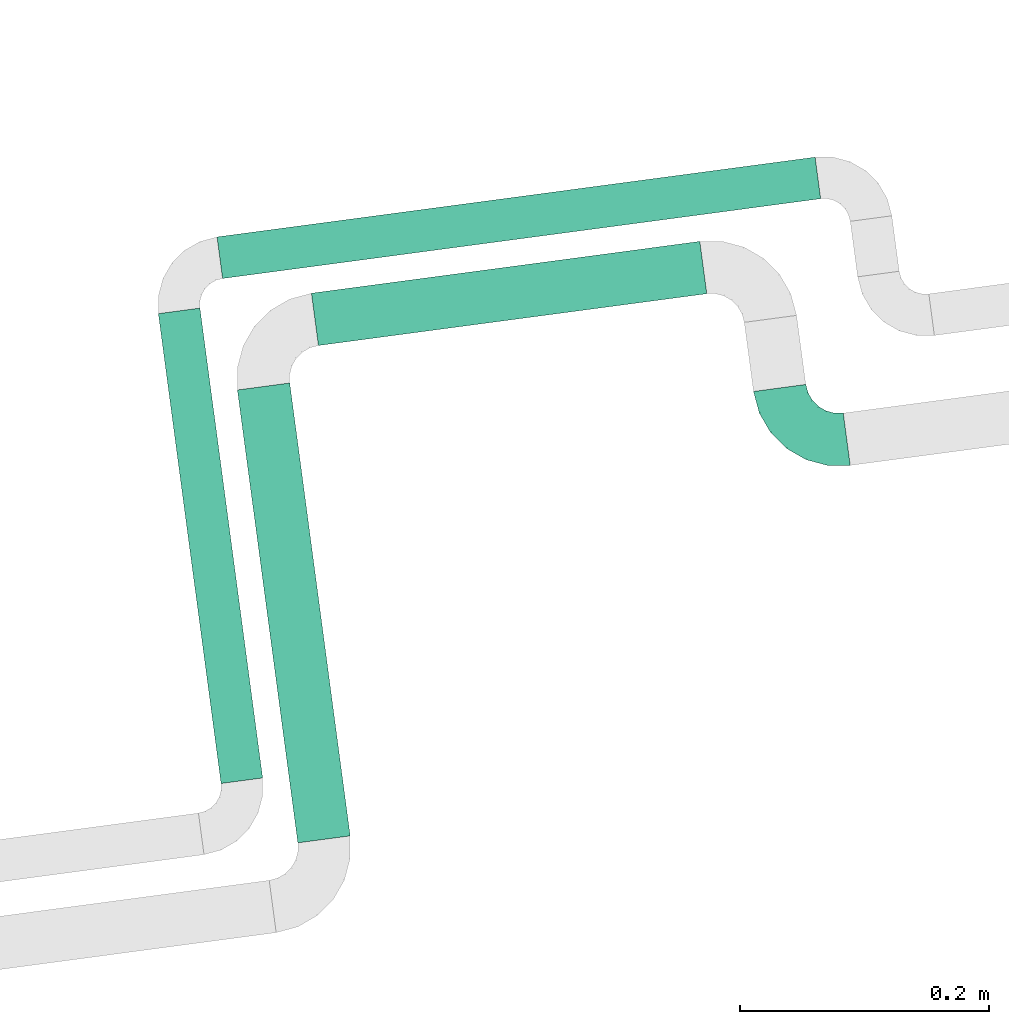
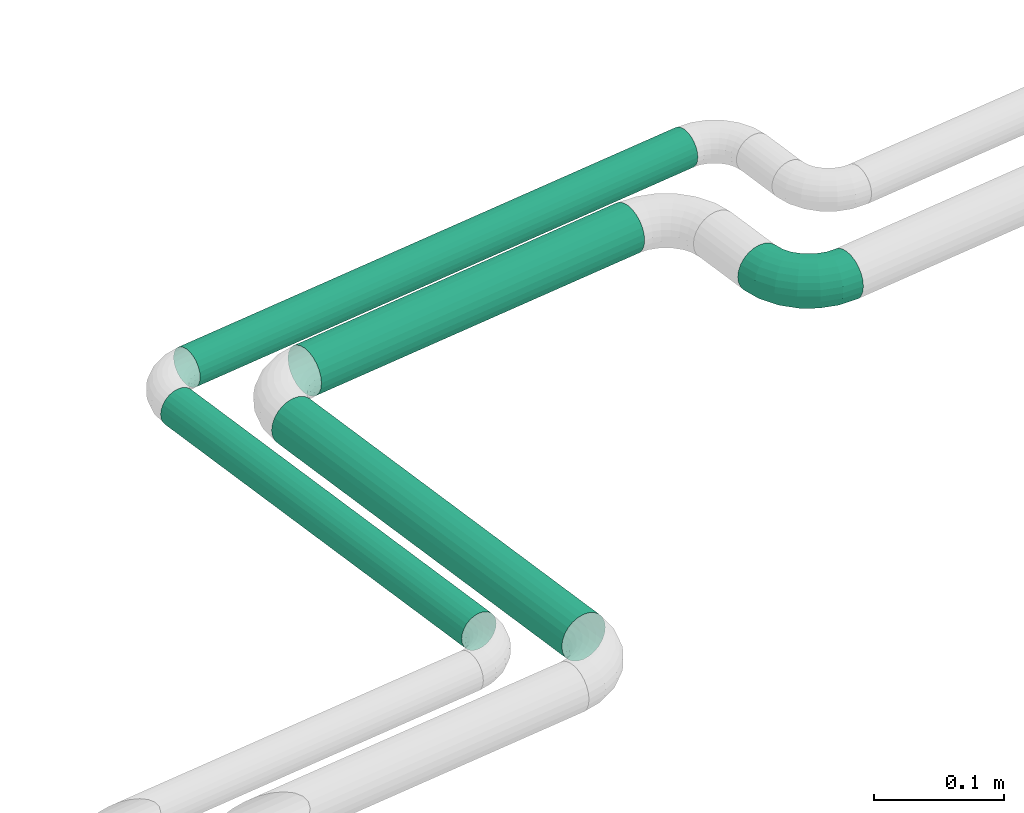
# One storey, part 325 of 374: 5 flow segments.
"""IFC2X3 building model written with IfcOpenShell, lengths in metres."""

from ifc_helpers import new_model, si_unit, direction, origin, place, context, subcontext, project, spatial, open_shell, surface_model, source, transform, mapped, element, save


model = new_model("IFC2X3")

# Units and contexts
model_context = context("Model", 3, precision=1e-05, world=origin(), true_north=direction((-0.4480736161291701, 0.8939966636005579)))
body_context = subcontext(model_context, "Body", "Model", "MODEL_VIEW")
ifc_project = project(units=[si_unit("LENGTHUNIT", "METRE"), si_unit("AREAUNIT", "SQUARE_METRE"), si_unit("VOLUMEUNIT", "CUBIC_METRE"), si_unit("PLANEANGLEUNIT", "RADIAN"), si_unit("THERMODYNAMICTEMPERATUREUNIT", "KELVIN"), si_unit("MASSUNIT", "GRAM", prefix="KILO"), si_unit("TIMEUNIT", "SECOND")], contexts=[model_context])

# Site, building, storey
site_placement = place(None, origin())
site = spatial("IfcSite", under=ifc_project, at=site_placement, Name="Site 1", CompositionType="ELEMENT")
building_placement = place(site_placement, origin())
building = spatial("IfcBuilding", under=site, at=building_placement, Name="Undefined", CompositionType="ELEMENT")
storey_placement = place(building_placement, origin())
storey = spatial("IfcBuildingStorey", under=building, at=storey_placement, Name="Rez de chauss\x8ee", CompositionType="ELEMENT", Elevation=0.0)

# Flow segments
shared_shape_1 = source(origin(), body_context, "Body", "SurfaceModel", [
    surface_model("IfcFaceBasedSurfaceModel", [(0.01806482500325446, 7.105427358e-15, 0.0), (0.017970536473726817, 0.005533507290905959, 0.0), (9.428852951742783e-05, 0.005533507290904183, 1.776356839e-15), (0.0, 0.0, 0.0), (-0.017172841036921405, 0.00613233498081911, -0.004587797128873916), (-0.01744928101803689, 0.0006051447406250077, -0.004636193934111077), (-0.03265412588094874, 0.007289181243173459, -0.013450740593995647), (-0.0330938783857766, 0.0017741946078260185, -0.013592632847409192), (-0.045294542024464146, 0.008925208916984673, -0.02598483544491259), (-0.045867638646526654, 0.0034274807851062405, -0.02625895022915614), (-0.054232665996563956, 0.010928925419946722, -0.041335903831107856), (-0.05490005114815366, 0.005452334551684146, -0.04177195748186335), (-0.05885937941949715, 0.013163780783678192, -0.05845779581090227), (-0.059575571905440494, 0.007710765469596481, -0.05907446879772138), (0.01769409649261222, 0.010875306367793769, -0.0014203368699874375), (0.00037072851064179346, 0.010875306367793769, -0.0014203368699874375), (-0.016362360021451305, 0.011455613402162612, -0.005866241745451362), (-0.03136483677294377, 0.012576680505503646, -0.014455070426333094), (-0.04361430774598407, 0.014162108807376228, -0.026601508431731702), (-0.05227599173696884, 0.016103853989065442, -0.0414777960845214), (-0.05675960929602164, 0.018269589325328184, -0.05807013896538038), (0.017254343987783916, 0.015661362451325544, -0.0041642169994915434), (0.0008104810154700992, 0.015661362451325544, -0.004164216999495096), (-0.01507307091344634, 0.016212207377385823, -0.008384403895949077), (-0.029313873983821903, 0.01727635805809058, -0.016537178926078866), (-0.04094144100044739, 0.01878129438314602, -0.02806694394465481), (-0.049163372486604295, 0.02062445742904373, -0.042187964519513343), (-0.05341935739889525, 0.02268023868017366, -0.05793791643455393), (0.016681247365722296, 0.01956551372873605, -0.008044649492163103), (0.001383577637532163, 0.01956551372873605, -0.008044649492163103), (-0.01339283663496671, 0.020077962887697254, -0.011970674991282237), (-0.026641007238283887, 0.021067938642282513, -0.01955517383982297), (-0.03745809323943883, 0.02246797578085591, -0.03028127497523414), (-0.04510692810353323, 0.0241826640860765, -0.04341801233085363), (-0.04906625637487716, 0.026095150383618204, -0.05807013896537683), (0.016013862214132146, 0.022321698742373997, -0.012797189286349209), (0.0020509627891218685, 0.022321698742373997, -0.012797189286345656), (-0.011436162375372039, 0.02278943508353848, -0.016380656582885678), (-0.023528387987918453, 0.02369303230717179, -0.023303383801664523), (-0.03340164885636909, 0.024970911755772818, -0.03309359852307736), (-0.040383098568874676, 0.026535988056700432, -0.04508411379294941), (-0.04399696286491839, 0.028281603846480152, -0.05845779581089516), (0.015297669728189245, 0.023742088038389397, -0.018097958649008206), (0.00276715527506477, 0.023742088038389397, -0.018097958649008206), (-0.009336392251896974, 0.024161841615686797, -0.021313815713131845), (-0.02018813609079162, 0.02497274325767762, -0.0275263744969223), (-0.029048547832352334, 0.02611953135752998, -0.03631225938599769), (-0.03531380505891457, 0.027524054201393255, -0.04707272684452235), (-0.0385569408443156, 0.02909059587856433, -0.05907446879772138), (0.014581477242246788, 0.023729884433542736, -0.02358571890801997), (0.0034833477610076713, 0.023729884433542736, -0.02358571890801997), (-0.007236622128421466, 0.024101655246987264, -0.026433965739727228), (-0.016847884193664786, 0.02481986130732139, -0.03193635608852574), (-0.02469544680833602, 0.02583555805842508, -0.03971791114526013), (-0.0302445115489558, 0.027079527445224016, -0.04924833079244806), (-0.03311691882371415, 0.02846699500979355, -0.059878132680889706), (0.013914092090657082, 0.02228591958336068, -0.02888648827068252), (0.004150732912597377, 0.022285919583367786, -0.028886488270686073), (-0.005279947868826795, 0.022612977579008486, -0.031392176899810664), (-0.013735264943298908, 0.023244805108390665, -0.03623279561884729), (-0.020639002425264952, 0.02413834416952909, -0.04307846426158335), (-0.025520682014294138, 0.025232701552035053, -0.051462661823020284), (-0.028047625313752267, 0.026453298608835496, -0.060814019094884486), (0.013340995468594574, 0.01950859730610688, -0.03363902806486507), (0.0047238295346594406, 0.01950859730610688, -0.033639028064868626), (-0.0035997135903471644, 0.019797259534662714, -0.035850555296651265), (-0.011062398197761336, 0.0203549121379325, -0.04012289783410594), (-0.017155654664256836, 0.021143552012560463, -0.04616490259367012), (-0.02146423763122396, 0.022109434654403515, -0.05356481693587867), (-0.02369452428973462, 0.023186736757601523, -0.06181834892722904), (0.012901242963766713, 0.015587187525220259, -0.037519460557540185), (0.005163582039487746, 0.015587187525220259, -0.03751946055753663), (-0.0023104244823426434, 0.015846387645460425, -0.03950526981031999), (-0.009011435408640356, 0.016347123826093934, -0.043341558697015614), (-0.01448278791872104, 0.017055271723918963, -0.048766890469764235), (-0.018351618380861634, 0.017922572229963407, -0.05541153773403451), (-0.02035427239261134, 0.018889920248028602, -0.06282267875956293), (0.012624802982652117, 0.010788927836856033, -0.040263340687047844), (0.005440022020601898, 0.010788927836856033, -0.0402633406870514), (-0.0014999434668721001, 0.011029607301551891, -0.04210725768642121), (-0.007722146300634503, 0.01149456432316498, -0.045669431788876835), (-0.012802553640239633, 0.012152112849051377, -0.05070710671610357), (-0.0163949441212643, 0.012957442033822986, -0.056876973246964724), (-0.018254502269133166, 0.013855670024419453, -0.06375856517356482), (0.012530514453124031, 0.005440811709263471, -0.041683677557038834), (0.005534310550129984, 0.0054408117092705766, -0.041683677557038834), (-0.0012235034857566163, 0.005675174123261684, -0.04347919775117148), (-0.007282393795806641, 0.006127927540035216, -0.046947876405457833), (-0.012229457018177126, 0.0067682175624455, -0.05185332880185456), (-0.015727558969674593, 0.007552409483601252, -0.05786125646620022), (-0.01753830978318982, 0.008427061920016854, -0.0645622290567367), (0.012624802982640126, -9.269558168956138e-05, -0.04168367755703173), (0.005440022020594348, -9.269558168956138e-05, -0.04168367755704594), (-0.001499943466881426, 0.00014798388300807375, -0.043527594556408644), (-0.007722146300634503, 0.0006129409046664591, -0.047089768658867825), (-0.012802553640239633, 0.001270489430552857, -0.05212744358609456), (-0.0163949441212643, 0.002075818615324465, -0.058297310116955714), (-0.018254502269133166, 0.0029740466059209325, -0.06517890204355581), (0.012901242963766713, -0.005434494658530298, -0.0402633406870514), (0.005163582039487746, -0.005434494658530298, -0.040263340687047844), (-0.0023104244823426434, -0.005175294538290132, -0.0422491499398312), (-0.009011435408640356, -0.004674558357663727, -0.046085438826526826), (-0.01448278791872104, -0.0039664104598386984, -0.051510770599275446), (-0.018351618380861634, -0.0030991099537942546, -0.05815541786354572), (-0.02035427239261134, -0.0021317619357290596, -0.06556655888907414), (0.013340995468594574, -0.010220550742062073, -0.03751946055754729), (0.0047238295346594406, -0.010220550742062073, -0.03751946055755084), (-0.0035997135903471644, -0.009931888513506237, -0.03973098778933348), (-0.011062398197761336, -0.009374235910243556, -0.04400333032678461), (-0.017155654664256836, -0.00858559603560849, -0.05004533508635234), (-0.02146423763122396, -0.007619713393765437, -0.057445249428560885), (-0.02369452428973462, -0.006542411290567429, -0.06569878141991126), (0.013914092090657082, -0.01412470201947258, -0.03363902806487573), (0.004150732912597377, -0.014124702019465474, -0.033639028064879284), (-0.005279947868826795, -0.013797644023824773, -0.036144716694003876), (-0.013735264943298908, -0.013165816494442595, -0.0409853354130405), (-0.020639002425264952, -0.012272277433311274, -0.04783100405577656), (-0.025520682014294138, -0.011177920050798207, -0.05621520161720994), (-0.028047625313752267, -0.009957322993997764, -0.0655665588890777), (0.014581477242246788, -0.01688088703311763, -0.028886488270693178), (0.0034833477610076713, -0.01688088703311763, -0.028886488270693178), (-0.007236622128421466, -0.016509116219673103, -0.031734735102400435), (-0.016847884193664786, -0.015790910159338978, -0.03723712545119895), (-0.02469544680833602, -0.014775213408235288, -0.04501868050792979), (-0.0302445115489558, -0.01353124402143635, -0.054549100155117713), (-0.03311691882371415, -0.012143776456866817, -0.06517890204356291), (0.015297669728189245, -0.01830127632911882, -0.02358571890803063), (0.00276715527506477, -0.01830127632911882, -0.02358571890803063), (-0.009336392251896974, -0.01788152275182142, -0.026801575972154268), (-0.02018813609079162, -0.017070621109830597, -0.033014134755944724), (-0.029048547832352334, -0.01592383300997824, -0.04180001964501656), (-0.03531380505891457, -0.014519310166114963, -0.05256048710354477), (-0.0385569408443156, -0.012952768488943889, -0.06456222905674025), (0.016013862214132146, -0.01828907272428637, -0.018097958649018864), (0.0020509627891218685, -0.01828907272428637, -0.018097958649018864), (-0.011436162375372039, -0.01782133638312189, -0.021681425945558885), (-0.023528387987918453, -0.016917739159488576, -0.02860415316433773), (-0.03340164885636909, -0.01563985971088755, -0.038394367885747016), (-0.040383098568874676, -0.014074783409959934, -0.05038488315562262), (-0.04399696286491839, -0.012329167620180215, -0.06375856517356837), (0.016681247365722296, -0.01684510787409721, -0.012797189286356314), (0.001383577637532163, -0.01684510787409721, -0.012797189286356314), (-0.01339283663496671, -0.016332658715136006, -0.01672321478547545), (-0.026641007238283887, -0.015342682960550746, -0.02430771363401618), (-0.03745809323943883, -0.01394264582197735, -0.03503381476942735), (-0.04510692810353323, -0.01222795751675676, -0.04817055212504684), (-0.04906625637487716, -0.010315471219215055, -0.06282267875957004), (0.017254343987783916, -0.014067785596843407, -0.008044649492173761), (0.0008104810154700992, -0.014067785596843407, -0.008044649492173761), (-0.01507307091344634, -0.013516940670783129, -0.012264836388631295), (-0.029313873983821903, -0.012452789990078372, -0.020417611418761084), (-0.04094144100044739, -0.010947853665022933, -0.03194737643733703), (-0.049163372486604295, -0.009104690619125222, -0.04606839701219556), (-0.05341935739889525, -0.007048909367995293, -0.06181834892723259), (0.01769409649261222, -0.010146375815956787, -0.004164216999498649), (0.00037072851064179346, -0.010146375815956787, -0.004164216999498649), (-0.016362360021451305, -0.009566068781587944, -0.008610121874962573), (-0.03136483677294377, -0.008445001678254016, -0.017198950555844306), (-0.04361430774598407, -0.006859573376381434, -0.029345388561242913), (-0.05227599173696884, -0.00491782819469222, -0.04422167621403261), (-0.05675960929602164, -0.002752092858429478, -0.060814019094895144), (0.017970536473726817, -0.0053481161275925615, -0.0014203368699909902), (9.428852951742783e-05, -0.0053481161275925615, -0.0014203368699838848), (-0.017172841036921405, -0.004749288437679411, -0.006008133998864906), (-0.03265412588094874, -0.0035924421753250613, -0.014871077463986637), (-0.045294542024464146, -0.001956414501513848, -0.02740517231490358), (-0.05423266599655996, 4.730200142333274e-05, -0.042756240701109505), (-0.05885937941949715, 0.002282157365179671, -0.05987813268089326)], [open_shell([[[0, 1, 2, 3]], [[3, 2, 4, 5]], [[5, 4, 6, 7]], [[7, 6, 8, 9]], [[9, 8, 10, 11]], [[11, 10, 12, 13]], [[1, 14, 15, 2]], [[2, 15, 16, 4]], [[4, 16, 17, 6]], [[6, 17, 18, 8]], [[8, 18, 19, 10]], [[10, 19, 20, 12]], [[14, 21, 22, 15]], [[15, 22, 23, 16]], [[16, 23, 24, 17]], [[17, 24, 25, 18]], [[18, 25, 26, 19]], [[19, 26, 27, 20]], [[21, 28, 29, 22]], [[22, 29, 30, 23]], [[23, 30, 31, 24]], [[24, 31, 32, 25]], [[25, 32, 33, 26]], [[26, 33, 34, 27]], [[28, 35, 36, 29]], [[29, 36, 37, 30]], [[30, 37, 38, 31]], [[31, 38, 39, 32]], [[32, 39, 40, 33]], [[33, 40, 41, 34]], [[35, 42, 43, 36]], [[36, 43, 44, 37]], [[37, 44, 45, 38]], [[38, 45, 46, 39]], [[39, 46, 47, 40]], [[40, 47, 48, 41]], [[42, 49, 50, 43]], [[43, 50, 51, 44]], [[44, 51, 52, 45]], [[45, 52, 53, 46]], [[46, 53, 54, 47]], [[47, 54, 55, 48]], [[49, 56, 57, 50]], [[50, 57, 58, 51]], [[51, 58, 59, 52]], [[52, 59, 60, 53]], [[53, 60, 61, 54]], [[54, 61, 62, 55]], [[56, 63, 64, 57]], [[57, 64, 65, 58]], [[58, 65, 66, 59]], [[59, 66, 67, 60]], [[60, 67, 68, 61]], [[61, 68, 69, 62]], [[63, 70, 71, 64]], [[64, 71, 72, 65]], [[65, 72, 73, 66]], [[66, 73, 74, 67]], [[67, 74, 75, 68]], [[68, 75, 76, 69]], [[70, 77, 78, 71]], [[71, 78, 79, 72]], [[72, 79, 80, 73]], [[73, 80, 81, 74]], [[74, 81, 82, 75]], [[75, 82, 83, 76]], [[77, 84, 85, 78]], [[78, 85, 86, 79]], [[79, 86, 87, 80]], [[80, 87, 88, 81]], [[81, 88, 89, 82]], [[82, 89, 90, 83]], [[84, 91, 92, 85]], [[85, 92, 93, 86]], [[86, 93, 94, 87]], [[87, 94, 95, 88]], [[88, 95, 96, 89]], [[89, 96, 97, 90]], [[91, 98, 99, 92]], [[92, 99, 100, 93]], [[93, 100, 101, 94]], [[94, 101, 102, 95]], [[95, 102, 103, 96]], [[96, 103, 104, 97]], [[98, 105, 106, 99]], [[99, 106, 107, 100]], [[100, 107, 108, 101]], [[101, 108, 109, 102]], [[102, 109, 110, 103]], [[103, 110, 111, 104]], [[105, 112, 113, 106]], [[106, 113, 114, 107]], [[107, 114, 115, 108]], [[108, 115, 116, 109]], [[109, 116, 117, 110]], [[110, 117, 118, 111]], [[112, 119, 120, 113]], [[113, 120, 121, 114]], [[114, 121, 122, 115]], [[115, 122, 123, 116]], [[116, 123, 124, 117]], [[117, 124, 125, 118]], [[119, 126, 127, 120]], [[120, 127, 128, 121]], [[121, 128, 129, 122]], [[122, 129, 130, 123]], [[123, 130, 131, 124]], [[124, 131, 132, 125]], [[126, 133, 134, 127]], [[127, 134, 135, 128]], [[128, 135, 136, 129]], [[129, 136, 137, 130]], [[130, 137, 138, 131]], [[131, 138, 139, 132]], [[133, 140, 141, 134]], [[134, 141, 142, 135]], [[135, 142, 143, 136]], [[136, 143, 144, 137]], [[137, 144, 145, 138]], [[138, 145, 146, 139]], [[140, 147, 148, 141]], [[141, 148, 149, 142]], [[142, 149, 150, 143]], [[143, 150, 151, 144]], [[144, 151, 152, 145]], [[145, 152, 153, 146]], [[147, 154, 155, 148]], [[148, 155, 156, 149]], [[149, 156, 157, 150]], [[150, 157, 158, 151]], [[151, 158, 159, 152]], [[152, 159, 160, 153]], [[154, 161, 162, 155]], [[155, 162, 163, 156]], [[156, 163, 164, 157]], [[157, 164, 165, 158]], [[158, 165, 166, 159]], [[159, 166, 167, 160]], [[161, 0, 3, 162]], [[162, 3, 5, 163]], [[163, 5, 7, 164]], [[164, 7, 9, 165]], [[165, 9, 11, 166]], [[166, 11, 13, 167]]])]),
])
flow_segment_1_placement = place(storey_placement, origin())
element("IfcFlowSegment", 1, at=flow_segment_1_placement, inside=storey, Name="Tube coudé", ObjectType="Tube coudé", context=body_context, shape_type="MappedRepresentation", body=[
    mapped(shared_shape_1, transform((63.795781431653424, 20.082032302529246, 4.005140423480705), x_axis=(-0.26050450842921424, 0.965472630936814, 0.0), y_axis=(0.12495948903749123, 0.03371665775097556, -0.991588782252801), z_axis=(-0.957351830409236, -0.2583133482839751, -0.12942830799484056))),
])
shared_shape_2 = source(origin(), body_context, "Body", "SurfaceModel", [
    surface_model("IfcFaceBasedSurfaceModel", [(0.0, 0.005534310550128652, 0.0), (0.0, 0.0, 0.0), (0.3148214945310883, 0.0, 0.0), (0.3148214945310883, 0.005534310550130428, 0.0), (0.0, -0.00534573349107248, -0.0014323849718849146), (0.31482149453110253, -0.00534573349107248, -0.0014323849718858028), (0.0, -0.010138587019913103, -0.004199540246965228), (0.31482149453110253, -0.010138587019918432, -0.004199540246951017), (0.0, -0.01405193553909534, -0.008112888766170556), (0.3148214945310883, -0.01405193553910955, -0.008112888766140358), (0.0, -0.016819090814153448, -0.012905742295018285), (0.3148214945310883, -0.0168190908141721, -0.012905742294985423), (0.0, -0.018251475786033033, -0.018251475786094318), (0.3148214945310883, -0.018251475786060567, -0.01825147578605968), (0.0, -0.0182514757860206, -0.02378578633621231), (0.3148214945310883, -0.01825147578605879, -0.023785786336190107), (0.0, -0.01681909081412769, -0.029131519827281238), (0.3148214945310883, -0.016819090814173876, -0.029131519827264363), (0.0, -0.014051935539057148, -0.03392437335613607), (0.31482149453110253, -0.014051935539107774, -0.033924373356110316), (0.0, -0.010138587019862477, -0.037837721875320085), (0.31482149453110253, -0.010138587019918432, -0.03783772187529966), (0.0, -0.005345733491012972, -0.040604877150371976), (0.3148214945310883, -0.005345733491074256, -0.04060487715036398), (0.0, 6.4837024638e-14, -0.042037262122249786), (0.3148214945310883, 0.0, -0.0420372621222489), (0.0, 0.005534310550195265, -0.04203726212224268), (0.31482149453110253, 0.005534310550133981, -0.042037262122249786), (0.0, 0.010880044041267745, -0.04060487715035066), (0.3148214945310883, 0.010880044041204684, -0.04060487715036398), (0.0, 0.01567289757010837, -0.03783772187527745), (0.3148214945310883, 0.015672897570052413, -0.03783772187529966), (0.0, 0.019586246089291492, -0.033924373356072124), (0.31482149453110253, 0.019586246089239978, -0.03392437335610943), (0.0, 0.0223534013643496, -0.029131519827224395), (0.3148214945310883, 0.02235340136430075, -0.029131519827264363), (0.0, 0.02378578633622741, -0.023785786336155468), (0.31482149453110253, 0.02378578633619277, -0.023785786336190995), (0.0, 0.023785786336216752, -0.01825147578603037), (0.3148214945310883, 0.023785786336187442, -0.01825147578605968), (0.0, 0.022353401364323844, -0.012905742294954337), (0.31482149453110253, 0.022353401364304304, -0.012905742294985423), (0.0, 0.019586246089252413, -0.008112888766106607), (0.3148214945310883, 0.019586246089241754, -0.008112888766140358), (0.0, 0.015672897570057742, -0.004199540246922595), (0.3148214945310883, 0.015672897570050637, -0.004199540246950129), (0.0, 0.010880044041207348, -0.0014323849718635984), (0.31482149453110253, 0.010880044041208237, -0.0014323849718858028)], [open_shell([[[0, 1, 2, 3]], [[1, 4, 5, 2]], [[4, 6, 7, 5]], [[6, 8, 9, 7]], [[8, 10, 11, 9]], [[10, 12, 13, 11]], [[12, 14, 15, 13]], [[14, 16, 17, 15]], [[16, 18, 19, 17]], [[18, 20, 21, 19]], [[20, 22, 23, 21]], [[22, 24, 25, 23]], [[24, 26, 27, 25]], [[26, 28, 29, 27]], [[28, 30, 31, 29]], [[30, 32, 33, 31]], [[32, 34, 35, 33]], [[34, 36, 37, 35]], [[36, 38, 39, 37]], [[38, 40, 41, 39]], [[40, 42, 43, 41]], [[42, 44, 45, 43]], [[44, 46, 47, 45]], [[46, 0, 3, 47]]])]),
])
flow_segment_2_placement = place(storey_placement, origin())
element("IfcFlowSegment", 2, at=flow_segment_2_placement, inside=storey, Name="Tube acier d'après DIN 2448", ObjectType="Tube acier d'après DIN 2448", context=body_context, shape_type="MappedRepresentation", body=[
    mapped(shared_shape_2, transform((63.751481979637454, 20.193576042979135, 3.984662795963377), x_axis=(-0.9912155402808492, -0.13225639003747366, 0.0), y_axis=(-0.1311249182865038, 0.9827355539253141, -0.13052619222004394), z_axis=(0.017262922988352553, -0.1293795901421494, -0.9914448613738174))),
])
shared_shape_3 = source(origin(), body_context, "Body", "SurfaceModel", [
    surface_model("IfcFaceBasedSurfaceModel", [(0.0, 0.005534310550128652, 0.0), (0.0, 0.0, 0.0), (0.36707293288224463, 0.0, -8.8817842e-16), (0.3670729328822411, 0.005534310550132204, -1.776356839e-15), (0.0, -0.00534573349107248, -0.0014323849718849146), (0.3670729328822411, -0.005345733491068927, -0.0014323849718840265), (0.0, -0.010138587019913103, -0.004199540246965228), (0.36707293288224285, -0.010138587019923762, -0.004199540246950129), (0.0, -0.01405193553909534, -0.008112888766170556), (0.3670729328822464, -0.01405193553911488, -0.00811288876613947), (0.0, -0.016819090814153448, -0.012905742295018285), (0.3670729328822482, -0.01681909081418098, -0.01290574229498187), (0.0, -0.018251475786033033, -0.018251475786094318), (0.36707293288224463, -0.01825147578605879, -0.018251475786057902), (0.0, -0.0182514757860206, -0.02378578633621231), (0.3670729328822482, -0.018251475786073, -0.023785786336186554), (0.0, -0.01681909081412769, -0.029131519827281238), (0.3670729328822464, -0.01681909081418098, -0.029131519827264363), (0.0, -0.014051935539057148, -0.03392437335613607), (0.36707293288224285, -0.01405193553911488, -0.03392437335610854), (0.0, -0.010138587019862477, -0.037837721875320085), (0.3670729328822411, -0.010138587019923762, -0.03783772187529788), (0.0, -0.005345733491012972, -0.040604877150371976), (0.36707293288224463, -0.005345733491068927, -0.040604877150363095), (0.0, 6.4837024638e-14, -0.042037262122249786), (0.3670729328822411, 0.0, -0.042037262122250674), (0.0, 0.005534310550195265, -0.04203726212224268), (0.36707293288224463, 0.0055343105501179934, -0.042037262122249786), (0.0, 0.010880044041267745, -0.04060487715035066), (0.36707293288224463, 0.010880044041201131, -0.04060487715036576), (0.0, 0.01567289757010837, -0.03783772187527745), (0.36707293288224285, 0.015672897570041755, -0.03783772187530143), (0.0, 0.019586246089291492, -0.033924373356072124), (0.3670729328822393, 0.019586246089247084, -0.03392437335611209), (0.0, 0.0223534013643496, -0.029131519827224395), (0.36707293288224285, 0.022353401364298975, -0.02913151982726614), (0.0, 0.02378578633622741, -0.023785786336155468), (0.3670729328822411, 0.023785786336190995, -0.023785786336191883), (0.0, 0.023785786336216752, -0.01825147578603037), (0.36707293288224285, 0.023785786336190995, -0.018251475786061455), (0.0, 0.022353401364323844, -0.012905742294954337), (0.3670729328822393, 0.022353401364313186, -0.0129057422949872), (0.0, 0.019586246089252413, -0.008112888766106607), (0.36707293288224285, 0.019586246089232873, -0.008112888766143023), (0.0, 0.015672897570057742, -0.004199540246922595), (0.36707293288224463, 0.015672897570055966, -0.004199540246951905), (0.0, 0.010880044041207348, -0.0014323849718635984), (0.36707293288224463, 0.01088004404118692, -0.0014323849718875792)], [open_shell([[[0, 1, 2, 3]], [[1, 4, 5, 2]], [[4, 6, 7, 5]], [[6, 8, 9, 7]], [[8, 10, 11, 9]], [[10, 12, 13, 11]], [[12, 14, 15, 13]], [[14, 16, 17, 15]], [[16, 18, 19, 17]], [[18, 20, 21, 19]], [[20, 22, 23, 21]], [[22, 24, 25, 23]], [[24, 26, 27, 25]], [[26, 28, 29, 27]], [[28, 30, 31, 29]], [[30, 32, 33, 31]], [[32, 34, 35, 33]], [[34, 36, 37, 35]], [[36, 38, 39, 37]], [[38, 40, 41, 39]], [[40, 42, 43, 41]], [[42, 44, 45, 43]], [[44, 46, 47, 45]], [[46, 0, 3, 47]]])]),
])
flow_segment_3_placement = place(storey_placement, origin())
element("IfcFlowSegment", 3, at=flow_segment_3_placement, inside=storey, Name="Tube acier d'après DIN 2448", ObjectType="Tube acier d'après DIN 2448", context=body_context, shape_type="MappedRepresentation", body=[
    mapped(shared_shape_3, transform((63.40290906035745, 20.104176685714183, 3.984662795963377), x_axis=(0.13225639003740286, -0.9912155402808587, 0.0), y_axis=(-0.9827355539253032, -0.13112491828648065, -0.13052619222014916), z_axis=(0.12937959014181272, 0.01726292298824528, -0.9914448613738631))),
])
shared_shape_4 = source(origin(), body_context, "Body", "SurfaceModel", [
    surface_model("IfcFaceBasedSurfaceModel", [(0.0, 0.004398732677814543, 0.0), (0.0, 0.0, 0.0), (0.4848016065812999, 1.776356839e-15, -8.8817842e-16), (0.4848016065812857, 0.0043987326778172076, -8.8817842e-16), (0.0, -0.004248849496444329, -0.00113847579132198), (0.4848016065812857, -0.004248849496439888, -0.0011384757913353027), (0.0, -0.008058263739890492, -0.003337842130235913), (0.4848016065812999, -0.008058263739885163, -0.0033378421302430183), (0.0, -0.01116863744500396, -0.0064482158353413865), (0.4848016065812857, -0.011168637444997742, -0.006448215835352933), (0.0, -0.013368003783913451, -0.010257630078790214), (0.4848016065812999, -0.01336800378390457, -0.010257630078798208), (0.0, -0.014506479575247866, -0.014506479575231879), (0.4848016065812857, -0.014506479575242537, -0.01450647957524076), (0.0, -0.01450647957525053, -0.01890521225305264), (0.4848016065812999, -0.014506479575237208, -0.01890521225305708), (0.0, -0.013368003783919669, -0.023154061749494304), (0.4848016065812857, -0.013368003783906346, -0.023154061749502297), (0.0, -0.011168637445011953, -0.02696347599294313), (0.4848016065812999, -0.011168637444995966, -0.026963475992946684), (0.0, -0.008058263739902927, -0.03007384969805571), (0.4848016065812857, -0.008058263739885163, -0.030073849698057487), (0.0, -0.004248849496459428, -0.03227321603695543), (0.4848016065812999, -0.004248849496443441, -0.0322732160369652), (0.0, -1.5099033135e-14, -0.03341169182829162), (0.4848016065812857, 1.776356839e-15, -0.03341169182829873), (0.0, 0.00439873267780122, -0.03341169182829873), (0.4848016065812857, 0.004398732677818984, -0.03341169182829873), (0.0, 0.008647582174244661, -0.03227321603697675), (0.4848016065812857, 0.008647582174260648, -0.0322732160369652), (0.0, 0.012456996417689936, -0.030073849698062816), (0.4848016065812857, 0.012456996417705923, -0.0300738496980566), (0.0, 0.01556737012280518, -0.026963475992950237), (0.4848016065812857, 0.015567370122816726, -0.026963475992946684), (0.0, 0.017766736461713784, -0.023154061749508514), (0.4848016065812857, 0.017766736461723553, -0.02315406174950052), (0.0, 0.018905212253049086, -0.01890521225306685), (0.4848016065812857, 0.018905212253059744, -0.01890521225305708), (0.0, 0.018905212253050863, -0.01450647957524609), (0.4848016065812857, 0.01890521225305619, -0.014506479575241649), (0.0, 0.01776673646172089, -0.01025763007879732), (0.4848016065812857, 0.01776673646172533, -0.01025763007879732), (0.0, 0.015567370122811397, -0.006448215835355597), (0.4848016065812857, 0.015567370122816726, -0.006448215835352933), (0.0, 0.012456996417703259, -0.0033378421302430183), (0.4848016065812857, 0.012456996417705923, -0.00333784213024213), (0.0, 0.00864758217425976, -0.0011384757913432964), (0.4848016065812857, 0.008647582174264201, -0.0011384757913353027)], [open_shell([[[0, 1, 2, 3]], [[1, 4, 5, 2]], [[4, 6, 7, 5]], [[6, 8, 9, 7]], [[8, 10, 11, 9]], [[10, 12, 13, 11]], [[12, 14, 15, 13]], [[14, 16, 17, 15]], [[16, 18, 19, 17]], [[18, 20, 21, 19]], [[20, 22, 23, 21]], [[22, 24, 25, 23]], [[24, 26, 27, 25]], [[26, 28, 29, 27]], [[28, 30, 31, 29]], [[30, 32, 33, 31]], [[32, 34, 35, 33]], [[34, 36, 37, 35]], [[36, 38, 39, 37]], [[38, 40, 41, 39]], [[40, 42, 43, 41]], [[42, 44, 45, 43]], [[44, 46, 47, 45]], [[46, 0, 3, 47]]])]),
])
flow_segment_4_placement = place(storey_placement, origin())
element("IfcFlowSegment", 4, at=flow_segment_4_placement, inside=storey, Name="Tube acier d'après DIN 2448", ObjectType="Tube acier d'après DIN 2448", context=body_context, shape_type="MappedRepresentation", body=[
    mapped(shared_shape_4, transform((63.842244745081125, 20.27534637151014, 4.021416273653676), x_axis=(-0.9912155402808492, -0.13225639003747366, 0.0), y_axis=(0.13112491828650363, -0.9827355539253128, 0.13052619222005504), z_axis=(-0.017262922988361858, 0.12937959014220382, 0.99144486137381))),
])
shared_shape_5 = source(origin(), body_context, "Body", "SurfaceModel", [
    surface_model("IfcFaceBasedSurfaceModel", [(0.0, 0.004398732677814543, 0.0), (0.0, 0.0, 0.0), (0.38083839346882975, 0.0, -8.8817842e-16), (0.380838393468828, 0.004398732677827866, -1.776356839e-15), (0.0, -0.004248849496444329, -0.00113847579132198), (0.380838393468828, -0.00424884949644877, -0.0011384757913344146), (0.0, -0.008058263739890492, -0.003337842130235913), (0.3808383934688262, -0.008058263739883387, -0.00333784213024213), (0.0, -0.01116863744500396, -0.0064482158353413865), (0.380838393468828, -0.011168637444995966, -0.00644821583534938), (0.0, -0.013368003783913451, -0.010257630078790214), (0.3808383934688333, -0.013368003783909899, -0.010257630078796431), (0.0, -0.014506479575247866, -0.014506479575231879), (0.380838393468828, -0.01450647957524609, -0.014506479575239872), (0.0, -0.01450647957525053, -0.01890521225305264), (0.3808383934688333, -0.01450647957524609, -0.018905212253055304), (0.0, -0.013368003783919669, -0.023154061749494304), (0.380838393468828, -0.013368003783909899, -0.023154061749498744), (0.0, -0.011168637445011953, -0.02696347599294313), (0.3808383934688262, -0.011168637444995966, -0.026963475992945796), (0.0, -0.008058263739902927, -0.03007384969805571), (0.380838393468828, -0.008058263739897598, -0.0300738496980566), (0.0, -0.004248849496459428, -0.03227321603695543), (0.38083839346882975, -0.00424884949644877, -0.032273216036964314), (0.0, -1.5099033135e-14, -0.03341169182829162), (0.380838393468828, 0.0, -0.03341169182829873), (0.0, 0.00439873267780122, -0.03341169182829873), (0.3808383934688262, 0.004398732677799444, -0.03341169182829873), (0.0, 0.008647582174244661, -0.03227321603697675), (0.3808383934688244, 0.008647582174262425, -0.03227321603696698), (0.0, 0.012456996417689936, -0.030073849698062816), (0.3808383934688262, 0.012456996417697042, -0.030073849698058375), (0.0, 0.01556737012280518, -0.026963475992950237), (0.3808383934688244, 0.01556737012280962, -0.02696347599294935), (0.0, 0.017766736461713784, -0.023154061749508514), (0.38083839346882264, 0.017766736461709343, -0.023154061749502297), (0.0, 0.018905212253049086, -0.01890521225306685), (0.38083839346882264, 0.018905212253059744, -0.018905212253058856), (0.0, 0.018905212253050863, -0.01450647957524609), (0.38083839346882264, 0.018905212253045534, -0.014506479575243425), (0.0, 0.01776673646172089, -0.01025763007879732), (0.3808383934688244, 0.017766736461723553, -0.010257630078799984), (0.0, 0.015567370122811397, -0.006448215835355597), (0.3808383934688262, 0.01556737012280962, -0.006448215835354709), (0.0, 0.012456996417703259, -0.0033378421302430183), (0.3808383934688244, 0.012456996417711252, -0.0033378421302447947), (0.0, 0.00864758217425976, -0.0011384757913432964), (0.3808383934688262, 0.008647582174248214, -0.0011384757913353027)], [open_shell([[[0, 1, 2, 3]], [[1, 4, 5, 2]], [[4, 6, 7, 5]], [[6, 8, 9, 7]], [[8, 10, 11, 9]], [[10, 12, 13, 11]], [[12, 14, 15, 13]], [[14, 16, 17, 15]], [[16, 18, 19, 17]], [[18, 20, 21, 19]], [[20, 22, 23, 21]], [[22, 24, 25, 23]], [[24, 26, 27, 25]], [[26, 28, 29, 27]], [[28, 30, 31, 29]], [[30, 32, 33, 31]], [[32, 34, 35, 33]], [[34, 36, 37, 35]], [[36, 38, 39, 37]], [[38, 40, 41, 39]], [[40, 42, 43, 41]], [[42, 44, 45, 43]], [[44, 46, 47, 45]], [[46, 0, 3, 47]]])]),
])
flow_segment_5_placement = place(storey_placement, origin())
element("IfcFlowSegment", 5, at=flow_segment_5_placement, inside=storey, Name="Tube acier d'après DIN 2448", ObjectType="Tube acier d'après DIN 2448", context=body_context, shape_type="MappedRepresentation", body=[
    mapped(shared_shape_5, transform((63.32531540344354, 20.163636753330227, 4.021416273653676), x_axis=(0.13225639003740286, -0.9912155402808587, 0.0), y_axis=(0.9827355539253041, 0.1311249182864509, 0.13052619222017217), z_axis=(-0.1293795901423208, -0.017262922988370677, 0.9914448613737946))),
])

save(model, "model.ifc")
